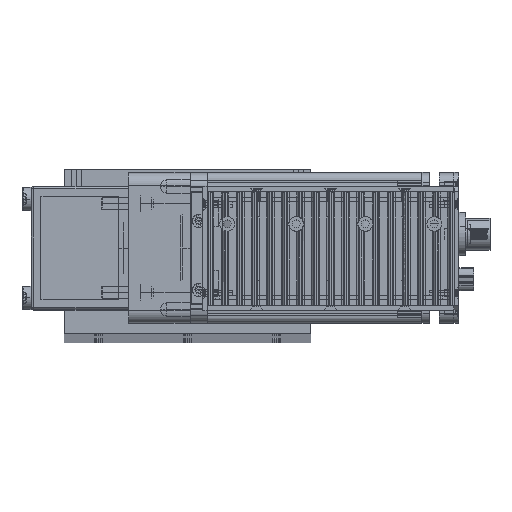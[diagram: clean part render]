
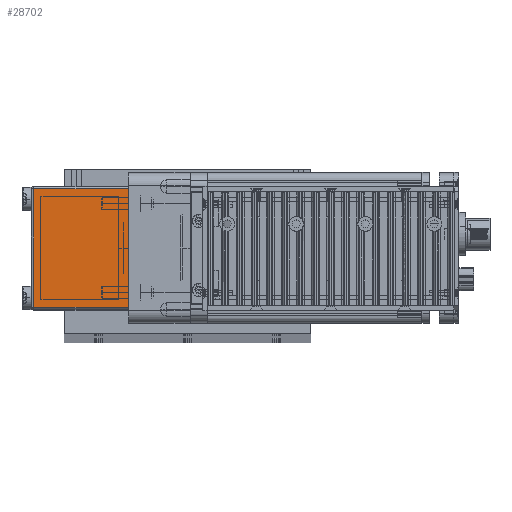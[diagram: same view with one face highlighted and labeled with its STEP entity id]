
A CAD part, top view. The second image highlights one B-rep face of the part: STEP entity #28702.
In plain terms, the highlighted planar face has unit normal (0, 0, 1) as drawn and (1, 0, 0) by its records, which use the part's own axes.
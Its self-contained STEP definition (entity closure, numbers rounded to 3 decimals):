
#107 = DIRECTION ( 'NONE',  ( 0., 0., 1. ) ) ;
#108 = VECTOR ( 'NONE', #107, 1000. ) ;
#109 = CARTESIAN_POINT ( 'NONE',  ( 62., -24., 39.5 ) ) ;
#110 = LINE ( 'NONE', #109, #108 ) ;
#4732 = CARTESIAN_POINT ( 'NONE',  ( 62., 25., 39.5 ) ) ;
#4742 = PLANE ( 'NONE',  #4783 ) ;
#4770 = DIRECTION ( 'NONE',  ( 0., -1., 0. ) ) ;
#4772 = DIRECTION ( 'NONE',  ( -1., 0., 0. ) ) ;
#4781 = FACE_OUTER_BOUND ( 'NONE', #29687, .T. ) ;
#4783 = AXIS2_PLACEMENT_3D ( 'NONE', #4732, #4772, #4770 ) ;
#4796 = LINE ( 'NONE', #5096, #5063 ) ;
#5063 = VECTOR ( 'NONE', #5319, 1000. ) ;
#5096 = CARTESIAN_POINT ( 'NONE',  ( 62., -25., 0. ) ) ;
#5319 = DIRECTION ( 'NONE',  ( 0., 1., 0. ) ) ;
#6478 = DIRECTION ( 'NONE',  ( 0., 1., 0. ) ) ;
#6479 = VECTOR ( 'NONE', #6478, 1000. ) ;
#6480 = CARTESIAN_POINT ( 'NONE',  ( 62., -25., 38.5 ) ) ;
#6481 = LINE ( 'NONE', #6480, #6479 ) ;
#10323 = VERTEX_POINT ( 'NONE', #36301 ) ;
#11439 = VERTEX_POINT ( 'NONE', #36426 ) ;
#11688 = VERTEX_POINT ( 'NONE', #36514 ) ;
#14645 = VERTEX_POINT ( 'NONE', #36970 ) ;
#25737 = EDGE_CURVE ( 'NONE', #11439, #11688, #48482, .T. ) ;
#26403 = EDGE_CURVE ( 'NONE', #14645, #10323, #110, .T. ) ;
#28702 = ADVANCED_FACE ( 'NONE', ( #4781 ), #4742, .F. ) ;
#29687 = EDGE_LOOP ( 'NONE', ( #29722, #29965, #29726, #29984 ) ) ;
#29693 = EDGE_CURVE ( 'NONE', #14645, #11688, #4796, .T. ) ;
#29701 = EDGE_CURVE ( 'NONE', #10323, #11439, #6481, .T. ) ;
#29722 = ORIENTED_EDGE ( 'NONE', *, *, #26403, .F. ) ;
#29726 = ORIENTED_EDGE ( 'NONE', *, *, #25737, .F. ) ;
#29965 = ORIENTED_EDGE ( 'NONE', *, *, #29693, .T. ) ;
#29984 = ORIENTED_EDGE ( 'NONE', *, *, #29701, .F. ) ;
#36301 = CARTESIAN_POINT ( 'NONE',  ( 62., -24., 38.5 ) ) ;
#36426 = CARTESIAN_POINT ( 'NONE',  ( 62., 24., 38.5 ) ) ;
#36514 = CARTESIAN_POINT ( 'NONE',  ( 62., 24., 0. ) ) ;
#36970 = CARTESIAN_POINT ( 'NONE',  ( 62., -24., 0. ) ) ;
#48479 = DIRECTION ( 'NONE',  ( 0., 0., -1. ) ) ;
#48480 = VECTOR ( 'NONE', #48479, 1000. ) ;
#48481 = CARTESIAN_POINT ( 'NONE',  ( 62., 24., 39.5 ) ) ;
#48482 = LINE ( 'NONE', #48481, #48480 ) ;
